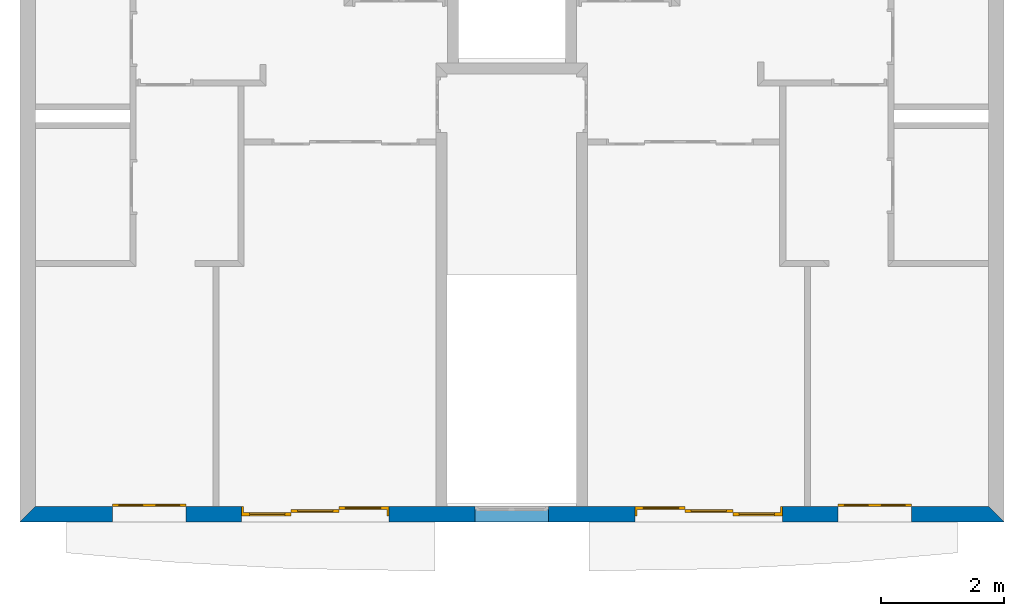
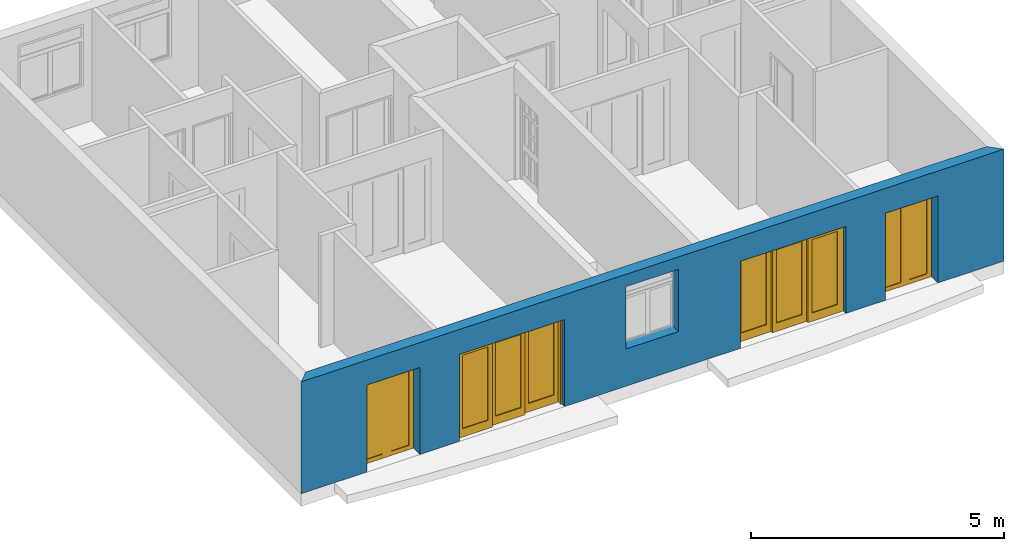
# One storey, part 2 of 12: 4 doors, 1 wall, 5 openings.
"""IFC2X3 building model written with IfcOpenShell, lengths in metres."""

from ifc_helpers import new_model, entity, si_unit, converted_unit, direction, frame, frame_2d, origin_with_axes, place, context, project, spatial, polyline, rectangle, outline, extrude, faceted_brep, source, transform, mapped, material, layer, layer_set, layer_usage, type_object, element, fill, save


model = new_model("IFC2X3")

# Units and contexts
context_of_model = context(None, 3, precision=1e-05, world=origin_with_axes(), true_north=direction((6.123234e-17, 1.0)))
plan_context = context("Plan", 3, precision=1e-05, world=origin_with_axes(), true_north=direction((6.123234e-17, 1.0)))
model_context = context("Model", 3, precision=1e-05, world=origin_with_axes(), true_north=direction((6.123234e-17, 1.0)))
ifc_project = project(units=[si_unit("LENGTHUNIT", "METRE"), si_unit("AREAUNIT", "SQUARE_METRE"), si_unit("VOLUMEUNIT", "CUBIC_METRE"), converted_unit("PLANEANGLEUNIT", "DEGREE", entity("IfcPlaneAngleMeasure", 0.017453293), si_unit("PLANEANGLEUNIT", "RADIAN"), dimensions=[0, 0, 0, 0, 0, 0, 0]), si_unit("SOLIDANGLEUNIT", "STERADIAN"), si_unit("MASSUNIT", "GRAM"), si_unit("TIMEUNIT", "SECOND"), si_unit("THERMODYNAMICTEMPERATUREUNIT", "DEGREE_CELSIUS"), si_unit("LUMINOUSINTENSITYUNIT", "LUMEN")], contexts=[context_of_model, plan_context, model_context])

# Site, building, storey
site_placement = place(None, origin_with_axes())
site = spatial("IfcSite", under=ifc_project, at=site_placement, Name="Por defecto Sitio", CompositionType="ELEMENT")
building_placement = place(site_placement, origin_with_axes())
building = spatial("IfcBuilding", under=site, at=building_placement, Name="Por defecto Edificio", CompositionType="ELEMENT")
storey_placement = place(building_placement, frame((0.0, 0.0, 10.2), z_axis=(0.0, 0.0, 1.0), x_axis=(1.0, 0.0, 0.0)))
storey = spatial("IfcBuildingStorey", under=building, at=storey_placement, Name="Tercera", CompositionType="ELEMENT", Elevation=10.2)

# Wall, openings, doors
ifc_material = material(Name="Ladrillo común")
ifc_layer = layer(ifc_material, 0.25, ventilated="UNKNOWN")
ifc_layer_set = layer_set([ifc_layer], Name="Ladrillo común")
ifc_layer_usage = layer_usage(ifc_layer_set, "AXIS2", "NEGATIVE", 0.0)
wall_type = type_object("IfcWallType", Name="Ladrillo común", PredefinedType="NOTDEFINED")
wall_placement = place(storey_placement, frame((16.03417, -1.1368684e-13, 0.0), z_axis=(0.0, 0.0, 1.0), x_axis=(-1.0, 7.0902852e-15, 0.0)))
wall = element("IfcWallStandardCase", 1, at=wall_placement, inside=storey, type_object=wall_type, material=ifc_layer_usage, Name="Muro-011", context=context_of_model, shape_type="SweptSolid", body=[
    extrude(outline(polyline([(0.25, -0.25), (15.78417, -0.25), (16.03417, 0.0), (0.0, 0.0), (0.25, -0.25)])), origin_with_axes(), (0.0, 0.0, 1.0), 2.7),
])
opening_1_placement = place(wall_placement, frame((13.926599, -0.25, 0.0), z_axis=(0.0, 0.0, 1.0), x_axis=(1.0, 0.0, 0.0)))
opening_1 = element("IfcOpeningElement", 2, at=opening_1_placement, cuts=wall, ObjectType="Opening", context=model_context, shape_type="SweptSolid", body=[
    extrude(rectangle(XDim=1.2, YDim=2.1, at=frame_2d((-1.7763568e-15, 1.05), x_axis=(-1.0, 0.0))), frame((0.0, 0.0, 0.0), z_axis=(0.0, 1.0, 0.0), x_axis=(-1.0, 0.0, 0.0)), (0.0, 0.0, 1.0), 0.25),
])
opening_2_placement = place(wall_placement, frame((2.1075705, -0.25, 0.0), z_axis=(0.0, 0.0, 1.0), x_axis=(1.0, 0.0, 0.0)))
opening_2 = element("IfcOpeningElement", 3, at=opening_2_placement, cuts=wall, ObjectType="Opening", context=model_context, shape_type="SweptSolid", body=[
    extrude(rectangle(XDim=1.2, YDim=2.1, at=frame_2d((-1.7763568e-15, 1.05), x_axis=(-1.0, 0.0))), frame((0.0, 0.0, 0.0), z_axis=(0.0, 1.0, 0.0), x_axis=(-1.0, 0.0, 0.0)), (0.0, 0.0, 1.0), 0.25),
])
opening_3_placement = place(wall_placement, frame((11.225136, -0.25, 0.0), z_axis=(0.0, 0.0, 1.0), x_axis=(1.0, 0.0, 0.0)))
opening_3 = element("IfcOpeningElement", 4, at=opening_3_placement, cuts=wall, ObjectType="Opening", context=model_context, shape_type="SweptSolid", body=[
    extrude(rectangle(XDim=2.4, YDim=2.1, at=frame_2d((-1.7763568e-15, 1.05), x_axis=(-1.0, 0.0))), frame((0.0, 0.0, 0.0), z_axis=(0.0, 1.0, 0.0), x_axis=(-1.0, 0.0, 0.0)), (0.0, 0.0, 1.0), 0.25),
])
opening_4_placement = place(wall_placement, frame((4.8090341, -0.25, 0.0), z_axis=(0.0, 0.0, 1.0), x_axis=(1.0, 0.0, 0.0)))
opening_4 = element("IfcOpeningElement", 5, at=opening_4_placement, cuts=wall, ObjectType="Opening", context=model_context, shape_type="SweptSolid", body=[
    extrude(rectangle(XDim=2.4, YDim=2.1, at=frame_2d((-1.7763568e-15, 1.05), x_axis=(-1.0, 0.0))), frame((0.0, 0.0, 0.0), z_axis=(0.0, 1.0, 0.0), x_axis=(-1.0, 0.0, 0.0)), (0.0, 0.0, 1.0), 0.25),
])
opening_5_placement = place(wall_placement, frame((8.0241698, -0.25, 0.9), z_axis=(0.0, 0.0, 1.0), x_axis=(1.0, 0.0, 0.0)))
element("IfcOpeningElement", 6, at=opening_5_placement, cuts=wall, ObjectType="Opening", context=model_context, shape_type="SweptSolid", body=[
    extrude(rectangle(XDim=1.2, YDim=1.5, at=frame_2d((-1.7763568e-15, 0.75), x_axis=(-1.0, 0.0))), frame((0.0, 0.0, 0.0), z_axis=(0.0, 1.0, 0.0), x_axis=(-1.0, 0.0, 0.0)), (0.0, 0.0, 1.0), 0.25),
])
door_style_1 = type_object("IfcDoorStyle", Name="P2 Corredera Ext 12", ConstructionType="NOTDEFINED", OperationType="DOUBLE_DOOR_SLIDING", ParameterTakesPrecedence=False, Sizeable=False)
shared_shape_1 = source(origin_with_axes(), model_context, "Body", "Brep", [
    faceted_brep([(-2.4424907e-15, 0.045, 0.1), (0.1, 0.045, 0.1), (0.1, 0.005, 0.1), (-2.220446e-15, 0.005, 0.1), (-2.4424907e-15, 0.045, 2.0), (0.1, 0.045, 2.0), (0.1, 0.005, 2.0), (-2.220446e-15, 0.005, 2.0)], [[[0, 1, 2, 3]], [[0, 4, 5, 1]], [[1, 5, 6, 2]], [[3, 2, 6, 7]], [[4, 0, 3, 7]], [[5, 4, 7, 6]]]),
    faceted_brep([(0.6, 0.045, 0.1), (0.6, 0.045, 2.0), (0.6, 0.005, 2.0), (0.6, 0.005, 0.1), (0.5, 0.045, 0.1), (0.5, 0.045, 2.0), (0.5, 0.005, 2.0), (0.5, 0.005, 0.1)], [[[0, 1, 2, 3]], [[0, 4, 5, 1]], [[1, 5, 6, 2]], [[3, 2, 6, 7]], [[4, 0, 3, 7]], [[5, 4, 7, 6]]]),
    faceted_brep([(-2.4424907e-15, 0.045, 0.0), (0.6, 0.045, 0.0), (0.6, 0.005, 0.0), (-2.220446e-15, 0.005, 0.0), (-2.4424907e-15, 0.045, 0.1), (0.1, 0.045, 0.1), (0.5, 0.045, 0.1), (0.6, 0.045, 0.1), (0.6, 0.005, 0.1), (0.5, 0.005, 0.1), (0.1, 0.005, 0.1), (-2.220446e-15, 0.005, 0.1)], [[[0, 1, 2, 3]], [[0, 4, 5, 6, 7, 1]], [[1, 7, 8, 2]], [[3, 2, 8, 9, 10, 11]], [[4, 0, 3, 11]], [[5, 4, 11, 10]], [[6, 5, 10, 9]], [[7, 6, 9, 8]]]),
    faceted_brep([(-2.4424907e-15, 0.045, 2.1), (-2.4424907e-15, 0.045, 2.0), (-2.220446e-15, 0.005, 2.0), (-2.220446e-15, 0.005, 2.1), (0.6, 0.045, 2.1), (0.6, 0.045, 2.0), (0.5, 0.045, 2.0), (0.1, 0.045, 2.0), (0.1, 0.005, 2.0), (0.5, 0.005, 2.0), (0.6, 0.005, 2.0), (0.6, 0.005, 2.1)], [[[0, 1, 2, 3]], [[0, 4, 5, 6, 7, 1]], [[1, 7, 8, 2]], [[3, 2, 8, 9, 10, 11]], [[4, 0, 3, 11]], [[5, 4, 11, 10]], [[6, 5, 10, 9]], [[7, 6, 9, 8]]]),
    faceted_brep([(0.1, 0.031, 0.1), (0.5, 0.031, 0.1), (0.5, 0.019, 0.1), (0.1, 0.019, 0.1), (0.1, 0.031, 2.0), (0.5, 0.031, 2.0), (0.5, 0.019, 2.0), (0.1, 0.019, 2.0)], [[[0, 1, 2, 3]], [[0, 4, 5, 1]], [[1, 5, 6, 2]], [[3, 2, 6, 7]], [[4, 0, 3, 7]], [[5, 4, 7, 6]]]),
    faceted_brep([(1.2, 0.045, 0.1), (1.2, 0.005, 0.1), (1.1, 0.005, 0.1), (1.1, 0.045, 0.1), (1.2, 0.045, 2.0), (1.2, 0.005, 2.0), (1.1, 0.005, 2.0), (1.1, 0.045, 2.0)], [[[0, 1, 2, 3]], [[4, 5, 1, 0]], [[1, 5, 6, 2]], [[3, 2, 6, 7]], [[0, 3, 7, 4]], [[7, 6, 5, 4]]]),
    faceted_brep([(0.6, 0.045, 0.1), (0.6, 0.005, 0.1), (0.6, 0.005, 2.0), (0.6, 0.045, 2.0), (0.7, 0.045, 0.1), (0.7, 0.005, 0.1), (0.7, 0.005, 2.0), (0.7, 0.045, 2.0)], [[[0, 1, 2, 3]], [[4, 5, 1, 0]], [[1, 5, 6, 2]], [[3, 2, 6, 7]], [[0, 3, 7, 4]], [[7, 6, 5, 4]]]),
    faceted_brep([(1.2, 0.045, 0.0), (1.2, 0.005, 0.0), (0.6, 0.005, 0.0), (0.6, 0.045, 0.0), (1.2, 0.045, 0.1), (1.2, 0.005, 0.1), (1.1, 0.005, 0.1), (0.7, 0.005, 0.1), (0.6, 0.005, 0.1), (0.6, 0.045, 0.1), (0.7, 0.045, 0.1), (1.1, 0.045, 0.1)], [[[0, 1, 2, 3]], [[4, 5, 1, 0]], [[1, 5, 6, 7, 8, 2]], [[3, 2, 8, 9]], [[0, 3, 9, 10, 11, 4]], [[11, 6, 5, 4]], [[10, 7, 6, 11]], [[9, 8, 7, 10]]]),
    faceted_brep([(1.2, 0.045, 2.1), (1.2, 0.005, 2.1), (1.2, 0.005, 2.0), (1.2, 0.045, 2.0), (0.6, 0.045, 2.1), (0.6, 0.005, 2.1), (0.6, 0.005, 2.0), (0.7, 0.005, 2.0), (1.1, 0.005, 2.0), (1.1, 0.045, 2.0), (0.7, 0.045, 2.0), (0.6, 0.045, 2.0)], [[[0, 1, 2, 3]], [[4, 5, 1, 0]], [[1, 5, 6, 7, 8, 2]], [[3, 2, 8, 9]], [[0, 3, 9, 10, 11, 4]], [[11, 6, 5, 4]], [[10, 7, 6, 11]], [[9, 8, 7, 10]]]),
    faceted_brep([(1.1, 0.031, 0.1), (1.1, 0.019, 0.1), (0.7, 0.019, 0.1), (0.7, 0.031, 0.1), (1.1, 0.031, 2.0), (1.1, 0.019, 2.0), (0.7, 0.019, 2.0), (0.7, 0.031, 2.0)], [[[0, 1, 2, 3]], [[4, 5, 1, 0]], [[1, 5, 6, 2]], [[3, 2, 6, 7]], [[0, 3, 7, 4]], [[7, 6, 5, 4]]]),
])
door_1_placement = place(opening_1_placement, frame((0.6, 0.0, 0.0), z_axis=(0.0, 0.0, 1.0), x_axis=(-1.0, 0.0, 0.0)))
door_1 = element("IfcDoor", 7, at=door_1_placement, inside=storey, type_object=door_style_1, Name="P29", OverallHeight=2.1, OverallWidth=1.2, context=model_context, shape_type="MappedRepresentation", body=[
    mapped(shared_shape_1, transform((0.0, 0.0, 0.0), scale=1.0)),
])
fill(opening_1, door_1)
door_style_2 = type_object("IfcDoorStyle", Name="P2 Corredera Ext 12", ConstructionType="NOTDEFINED", OperationType="DOUBLE_DOOR_SLIDING", ParameterTakesPrecedence=False, Sizeable=False)
door_2_placement = place(opening_2_placement, frame((0.6, 0.0, 0.0), z_axis=(0.0, 0.0, 1.0), x_axis=(-1.0, 0.0, 0.0)))
door_2 = element("IfcDoor", 8, at=door_2_placement, inside=storey, type_object=door_style_2, Name="P30", OverallHeight=2.1, OverallWidth=1.2, context=model_context, shape_type="MappedRepresentation", body=[
    mapped(shared_shape_1, transform((0.0, 0.0, 0.0), scale=1.0)),
])
fill(opening_2, door_2)
door_style_3 = type_object("IfcDoorStyle", Name="P3 Corredera 12", ConstructionType="NOTDEFINED", OperationType="SLIDING_TO_RIGHT", ParameterTakesPrecedence=False, Sizeable=False)
shared_shape_2 = source(origin_with_axes(), model_context, "Body", "Brep", [
    faceted_brep([(0.03, 0.15, 0.0), (0.03, 0.15, 2.07), (0.03, -8.6333718e-14, 2.07), (0.03, -8.6222696e-14, 0.0), (-1.7763568e-15, 0.15, 0.0), (-1.7763568e-15, 0.15, 2.07), (-8.8817842e-16, -8.6541885e-14, 2.07), (0.0, 0.0, 0.0)], [[[0, 1, 2, 3]], [[0, 4, 5, 1]], [[1, 5, 6, 2]], [[3, 2, 6, 7]], [[4, 0, 3, 7]], [[5, 4, 7, 6]]]),
    faceted_brep([(2.4, 0.15, 0.0), (2.4, 0.15, 2.07), (2.4, -7.0110584e-14, 2.07), (2.4, -6.9999562e-14, 0.0), (2.37, 0.15, 0.0), (2.37, 0.15, 2.07), (2.37, -7.0318751e-14, 2.07), (2.37, -7.0179973e-14, 0.0)], [[[0, 1, 2, 3]], [[0, 4, 5, 1]], [[1, 5, 6, 2]], [[3, 2, 6, 7]], [[4, 0, 3, 7]], [[5, 4, 7, 6]]]),
    faceted_brep([(-1.7763568e-15, 0.15, 2.1), (-1.7763568e-15, 0.15, 2.07), (-8.8817842e-16, -8.6541885e-14, 2.07), (-8.8817842e-16, -8.6541885e-14, 2.1), (2.4, 0.15, 2.1), (2.4, 0.15, 2.07), (2.37, 0.15, 2.07), (0.03, 0.15, 2.07), (0.03, -8.6333718e-14, 2.07), (2.37, -7.0318751e-14, 2.07), (2.4, -7.0110584e-14, 2.07), (2.4, -7.0110584e-14, 2.1)], [[[0, 1, 2, 3]], [[0, 4, 5, 6, 7, 1]], [[1, 7, 8, 2]], [[3, 2, 8, 9, 10, 11]], [[4, 0, 3, 11]], [[5, 4, 11, 10]], [[6, 5, 10, 9]], [[7, 6, 9, 8]]]),
    faceted_brep([(2.37, 0.15, 0.2), (2.37, 0.1, 0.2), (2.27, 0.1, 0.2), (2.27, 0.15, 0.2), (2.37, 0.15, 1.97), (2.37, 0.1, 1.97), (2.27, 0.1, 1.97), (2.27, 0.15, 1.97)], [[[0, 1, 2, 3]], [[4, 5, 1, 0]], [[1, 5, 6, 2]], [[3, 2, 6, 7]], [[0, 3, 7, 4]], [[7, 6, 5, 4]]]),
    faceted_brep([(1.59, 0.15, 0.2), (1.59, 0.1, 0.2), (1.59, 0.1, 1.97), (1.59, 0.15, 1.97), (1.69, 0.15, 0.2), (1.69, 0.1, 0.2), (1.69, 0.1, 1.97), (1.69, 0.15, 1.97)], [[[0, 1, 2, 3]], [[4, 5, 1, 0]], [[1, 5, 6, 2]], [[3, 2, 6, 7]], [[0, 3, 7, 4]], [[7, 6, 5, 4]]]),
    faceted_brep([(2.37, 0.15, 0.0), (2.37, 0.1, 0.0), (1.59, 0.1, 0.0), (1.59, 0.15, 0.0), (2.37, 0.15, 0.2), (2.37, 0.1, 0.2), (2.27, 0.1, 0.2), (1.69, 0.1, 0.2), (1.59, 0.1, 0.2), (1.59, 0.15, 0.2), (1.69, 0.15, 0.2), (2.27, 0.15, 0.2)], [[[0, 1, 2, 3]], [[4, 5, 1, 0]], [[1, 5, 6, 7, 8, 2]], [[3, 2, 8, 9]], [[0, 3, 9, 10, 11, 4]], [[11, 6, 5, 4]], [[10, 7, 6, 11]], [[9, 8, 7, 10]]]),
    faceted_brep([(2.37, 0.15, 2.07), (2.37, 0.1, 2.07), (2.37, 0.1, 1.97), (2.37, 0.15, 1.97), (1.59, 0.15, 2.07), (1.59, 0.1, 2.07), (1.59, 0.1, 1.97), (1.69, 0.1, 1.97), (2.27, 0.1, 1.97), (2.27, 0.15, 1.97), (1.69, 0.15, 1.97), (1.59, 0.15, 1.97)], [[[0, 1, 2, 3]], [[4, 5, 1, 0]], [[1, 5, 6, 7, 8, 2]], [[3, 2, 8, 9]], [[0, 3, 9, 10, 11, 4]], [[11, 6, 5, 4]], [[10, 7, 6, 11]], [[9, 8, 7, 10]]]),
    faceted_brep([(2.27, 0.131, 0.2), (2.27, 0.119, 0.2), (1.69, 0.119, 0.2), (1.69, 0.131, 0.2), (2.27, 0.131, 1.97), (2.27, 0.119, 1.97), (1.69, 0.119, 1.97), (1.69, 0.131, 1.97)], [[[0, 1, 2, 3]], [[4, 5, 1, 0]], [[1, 5, 6, 2]], [[3, 2, 6, 7]], [[0, 3, 7, 4]], [[7, 6, 5, 4]]]),
    faceted_brep([(1.59, 0.1, 0.2), (1.59, 0.05, 0.2), (1.49, 0.05, 0.2), (1.49, 0.1, 0.2), (1.59, 0.1, 1.97), (1.59, 0.05, 1.97), (1.49, 0.05, 1.97), (1.49, 0.1, 1.97)], [[[0, 1, 2, 3]], [[4, 5, 1, 0]], [[1, 5, 6, 2]], [[3, 2, 6, 7]], [[0, 3, 7, 4]], [[7, 6, 5, 4]]]),
    faceted_brep([(0.81, 0.1, 0.2), (0.81, 0.05, 0.2), (0.81, 0.05, 1.97), (0.81, 0.1, 1.97), (0.91, 0.1, 0.2), (0.91, 0.05, 0.2), (0.91, 0.05, 1.97), (0.91, 0.1, 1.97)], [[[0, 1, 2, 3]], [[4, 5, 1, 0]], [[1, 5, 6, 2]], [[3, 2, 6, 7]], [[0, 3, 7, 4]], [[7, 6, 5, 4]]]),
    faceted_brep([(1.59, 0.1, 0.0), (1.59, 0.05, 0.0), (0.81, 0.05, 0.0), (0.81, 0.1, 0.0), (1.59, 0.1, 0.2), (1.59, 0.05, 0.2), (1.49, 0.05, 0.2), (0.91, 0.05, 0.2), (0.81, 0.05, 0.2), (0.81, 0.1, 0.2), (0.91, 0.1, 0.2), (1.49, 0.1, 0.2)], [[[0, 1, 2, 3]], [[4, 5, 1, 0]], [[1, 5, 6, 7, 8, 2]], [[3, 2, 8, 9]], [[0, 3, 9, 10, 11, 4]], [[11, 6, 5, 4]], [[10, 7, 6, 11]], [[9, 8, 7, 10]]]),
    faceted_brep([(1.59, 0.1, 2.07), (1.59, 0.05, 2.07), (1.59, 0.05, 1.97), (1.59, 0.1, 1.97), (0.81, 0.1, 2.07), (0.81, 0.05, 2.07), (0.81, 0.05, 1.97), (0.91, 0.05, 1.97), (1.49, 0.05, 1.97), (1.49, 0.1, 1.97), (0.91, 0.1, 1.97), (0.81, 0.1, 1.97)], [[[0, 1, 2, 3]], [[4, 5, 1, 0]], [[1, 5, 6, 7, 8, 2]], [[3, 2, 8, 9]], [[0, 3, 9, 10, 11, 4]], [[11, 6, 5, 4]], [[10, 7, 6, 11]], [[9, 8, 7, 10]]]),
    faceted_brep([(1.49, 0.081, 0.2), (1.49, 0.069, 0.2), (0.91, 0.069, 0.2), (0.91, 0.081, 0.2), (1.49, 0.081, 1.97), (1.49, 0.069, 1.97), (0.91, 0.069, 1.97), (0.91, 0.081, 1.97)], [[[0, 1, 2, 3]], [[4, 5, 1, 0]], [[1, 5, 6, 2]], [[3, 2, 6, 7]], [[0, 3, 7, 4]], [[7, 6, 5, 4]]]),
    faceted_brep([(0.81, 0.05, 0.2), (0.81, -8.0907503e-14, 0.2), (0.71, -8.1587515e-14, 0.2), (0.71, 0.05, 0.2), (0.81, 0.05, 1.97), (0.81, -8.1129548e-14, 1.97), (0.71, -8.1809559e-14, 1.97), (0.71, 0.05, 1.97)], [[[0, 1, 2, 3]], [[4, 5, 1, 0]], [[1, 5, 6, 2]], [[3, 2, 6, 7]], [[0, 3, 7, 4]], [[7, 6, 5, 4]]]),
    faceted_brep([(0.03, 0.05, 0.2), (0.03, -8.6250451e-14, 0.2), (0.03, -8.6472496e-14, 1.97), (0.03, 0.05, 1.97), (0.13, 0.05, 0.2), (0.13, -8.557044e-14, 0.2), (0.13, -8.5792484e-14, 1.97), (0.13, 0.05, 1.97)], [[[0, 1, 2, 3]], [[4, 5, 1, 0]], [[1, 5, 6, 2]], [[3, 2, 6, 7]], [[0, 3, 7, 4]], [[7, 6, 5, 4]]]),
    faceted_brep([(0.81, 0.05, 0.0), (0.81, -8.0907503e-14, 0.0), (0.03, -8.6250451e-14, 0.0), (0.03, 0.05, 0.0), (0.81, 0.05, 0.2), (0.81, -8.0907503e-14, 0.2), (0.71, -8.1587515e-14, 0.2), (0.13, -8.557044e-14, 0.2), (0.03, -8.6250451e-14, 0.2), (0.03, 0.05, 0.2), (0.13, 0.05, 0.2), (0.71, 0.05, 0.2)], [[[0, 1, 2, 3]], [[4, 5, 1, 0]], [[1, 5, 6, 7, 8, 2]], [[3, 2, 8, 9]], [[0, 3, 9, 10, 11, 4]], [[11, 6, 5, 4]], [[10, 7, 6, 11]], [[9, 8, 7, 10]]]),
    faceted_brep([(0.81, 0.05, 2.07), (0.81, -8.1129548e-14, 2.07), (0.81, -8.1129548e-14, 1.97), (0.81, 0.05, 1.97), (0.03, 0.05, 2.07), (0.03, -8.6472496e-14, 2.07), (0.03, -8.6472496e-14, 1.97), (0.13, -8.5792484e-14, 1.97), (0.71, -8.1809559e-14, 1.97), (0.71, 0.05, 1.97), (0.13, 0.05, 1.97), (0.03, 0.05, 1.97)], [[[0, 1, 2, 3]], [[4, 5, 1, 0]], [[1, 5, 6, 7, 8, 2]], [[3, 2, 8, 9]], [[0, 3, 9, 10, 11, 4]], [[11, 6, 5, 4]], [[10, 7, 6, 11]], [[9, 8, 7, 10]]]),
    faceted_brep([(0.71, 0.031, 0.2), (0.71, 0.019, 0.2), (0.13, 0.019, 0.2), (0.13, 0.031, 0.2), (0.71, 0.031, 1.97), (0.71, 0.019, 1.97), (0.13, 0.019, 1.97), (0.13, 0.031, 1.97)], [[[0, 1, 2, 3]], [[4, 5, 1, 0]], [[1, 5, 6, 2]], [[3, 2, 6, 7]], [[0, 3, 7, 4]], [[7, 6, 5, 4]]]),
])
door_3_placement = place(opening_3_placement, frame((1.2, 0.15, 0.0), z_axis=(0.0, 0.0, 1.0), x_axis=(-1.0, 0.0, 0.0)))
door_3 = element("IfcDoor", 9, at=door_3_placement, inside=storey, type_object=door_style_3, Name="P26", OverallHeight=2.1, OverallWidth=2.4, context=model_context, shape_type="MappedRepresentation", body=[
    mapped(shared_shape_2, transform((0.0, 0.0, 0.0), scale=1.0)),
])
fill(opening_3, door_3)
door_style_4 = type_object("IfcDoorStyle", Name="P3 Corredera 12", ConstructionType="NOTDEFINED", OperationType="SLIDING_TO_LEFT", ParameterTakesPrecedence=False, Sizeable=False)
shared_shape_3 = source(origin_with_axes(), model_context, "Body", "Brep", [
    faceted_brep([(2.37, 0.15, 0.0), (2.37, -2.5493496e-14, 0.0), (2.37, -2.5632274e-14, 2.07), (2.37, 0.15, 2.07), (2.4, 0.15, 0.0), (2.4, -2.5313085e-14, 0.0), (2.4, -2.5424107e-14, 2.07), (2.4, 0.15, 2.07)], [[[0, 1, 2, 3]], [[4, 5, 1, 0]], [[1, 5, 6, 2]], [[3, 2, 6, 7]], [[0, 3, 7, 4]], [[7, 6, 5, 4]]]),
    faceted_brep([(-1.7763568e-15, 0.15, 0.0), (0.0, 0.0, 0.0), (0.0, -4.1855408e-14, 2.07), (-1.7763568e-15, 0.15, 2.07), (0.03, 0.15, 0.0), (0.03, -4.1536219e-14, 0.0), (0.03, -4.1647241e-14, 2.07), (0.03, 0.15, 2.07)], [[[0, 1, 2, 3]], [[4, 5, 1, 0]], [[1, 5, 6, 2]], [[3, 2, 6, 7]], [[0, 3, 7, 4]], [[7, 6, 5, 4]]]),
    faceted_brep([(2.4, 0.15, 2.1), (2.4, -2.5424107e-14, 2.1), (2.4, -2.5424107e-14, 2.07), (2.4, 0.15, 2.07), (-1.7763568e-15, 0.15, 2.1), (0.0, -4.1855408e-14, 2.1), (0.0, -4.1855408e-14, 2.07), (0.03, -4.1647241e-14, 2.07), (2.37, -2.5632274e-14, 2.07), (2.37, 0.15, 2.07), (0.03, 0.15, 2.07), (-1.7763568e-15, 0.15, 2.07)], [[[0, 1, 2, 3]], [[4, 5, 1, 0]], [[1, 5, 6, 7, 8, 2]], [[3, 2, 8, 9]], [[0, 3, 9, 10, 11, 4]], [[11, 6, 5, 4]], [[10, 7, 6, 11]], [[9, 8, 7, 10]]]),
    faceted_brep([(0.03, 0.15, 0.2), (0.13, 0.15, 0.2), (0.13, 0.1, 0.2), (0.03, 0.1, 0.2), (0.03, 0.15, 1.97), (0.13, 0.15, 1.97), (0.13, 0.1, 1.97), (0.03, 0.1, 1.97)], [[[0, 1, 2, 3]], [[0, 4, 5, 1]], [[1, 5, 6, 2]], [[3, 2, 6, 7]], [[4, 0, 3, 7]], [[5, 4, 7, 6]]]),
    faceted_brep([(0.81, 0.15, 0.2), (0.81, 0.15, 1.97), (0.81, 0.1, 1.97), (0.81, 0.1, 0.2), (0.71, 0.15, 0.2), (0.71, 0.15, 1.97), (0.71, 0.1, 1.97), (0.71, 0.1, 0.2)], [[[0, 1, 2, 3]], [[0, 4, 5, 1]], [[1, 5, 6, 2]], [[3, 2, 6, 7]], [[4, 0, 3, 7]], [[5, 4, 7, 6]]]),
    faceted_brep([(0.03, 0.15, 0.0), (0.81, 0.15, 0.0), (0.81, 0.1, 0.0), (0.03, 0.1, 0.0), (0.03, 0.15, 0.2), (0.13, 0.15, 0.2), (0.71, 0.15, 0.2), (0.81, 0.15, 0.2), (0.81, 0.1, 0.2), (0.71, 0.1, 0.2), (0.13, 0.1, 0.2), (0.03, 0.1, 0.2)], [[[0, 1, 2, 3]], [[0, 4, 5, 6, 7, 1]], [[1, 7, 8, 2]], [[3, 2, 8, 9, 10, 11]], [[4, 0, 3, 11]], [[5, 4, 11, 10]], [[6, 5, 10, 9]], [[7, 6, 9, 8]]]),
    faceted_brep([(0.03, 0.15, 2.07), (0.03, 0.15, 1.97), (0.03, 0.1, 1.97), (0.03, 0.1, 2.07), (0.81, 0.15, 2.07), (0.81, 0.15, 1.97), (0.71, 0.15, 1.97), (0.13, 0.15, 1.97), (0.13, 0.1, 1.97), (0.71, 0.1, 1.97), (0.81, 0.1, 1.97), (0.81, 0.1, 2.07)], [[[0, 1, 2, 3]], [[0, 4, 5, 6, 7, 1]], [[1, 7, 8, 2]], [[3, 2, 8, 9, 10, 11]], [[4, 0, 3, 11]], [[5, 4, 11, 10]], [[6, 5, 10, 9]], [[7, 6, 9, 8]]]),
    faceted_brep([(0.13, 0.131, 0.2), (0.71, 0.131, 0.2), (0.71, 0.119, 0.2), (0.13, 0.119, 0.2), (0.13, 0.131, 1.97), (0.71, 0.131, 1.97), (0.71, 0.119, 1.97), (0.13, 0.119, 1.97)], [[[0, 1, 2, 3]], [[0, 4, 5, 1]], [[1, 5, 6, 2]], [[3, 2, 6, 7]], [[4, 0, 3, 7]], [[5, 4, 7, 6]]]),
    faceted_brep([(0.81, 0.1, 0.2), (0.91, 0.1, 0.2), (0.91, 0.05, 0.2), (0.81, 0.05, 0.2), (0.81, 0.1, 1.97), (0.91, 0.1, 1.97), (0.91, 0.05, 1.97), (0.81, 0.05, 1.97)], [[[0, 1, 2, 3]], [[0, 4, 5, 1]], [[1, 5, 6, 2]], [[3, 2, 6, 7]], [[4, 0, 3, 7]], [[5, 4, 7, 6]]]),
    faceted_brep([(1.59, 0.1, 0.2), (1.59, 0.1, 1.97), (1.59, 0.05, 1.97), (1.59, 0.05, 0.2), (1.49, 0.1, 0.2), (1.49, 0.1, 1.97), (1.49, 0.05, 1.97), (1.49, 0.05, 0.2)], [[[0, 1, 2, 3]], [[0, 4, 5, 1]], [[1, 5, 6, 2]], [[3, 2, 6, 7]], [[4, 0, 3, 7]], [[5, 4, 7, 6]]]),
    faceted_brep([(0.81, 0.1, 0.0), (1.59, 0.1, 0.0), (1.59, 0.05, 0.0), (0.81, 0.05, 0.0), (0.81, 0.1, 0.2), (0.91, 0.1, 0.2), (1.49, 0.1, 0.2), (1.59, 0.1, 0.2), (1.59, 0.05, 0.2), (1.49, 0.05, 0.2), (0.91, 0.05, 0.2), (0.81, 0.05, 0.2)], [[[0, 1, 2, 3]], [[0, 4, 5, 6, 7, 1]], [[1, 7, 8, 2]], [[3, 2, 8, 9, 10, 11]], [[4, 0, 3, 11]], [[5, 4, 11, 10]], [[6, 5, 10, 9]], [[7, 6, 9, 8]]]),
    faceted_brep([(0.81, 0.1, 2.07), (0.81, 0.1, 1.97), (0.81, 0.05, 1.97), (0.81, 0.05, 2.07), (1.59, 0.1, 2.07), (1.59, 0.1, 1.97), (1.49, 0.1, 1.97), (0.91, 0.1, 1.97), (0.91, 0.05, 1.97), (1.49, 0.05, 1.97), (1.59, 0.05, 1.97), (1.59, 0.05, 2.07)], [[[0, 1, 2, 3]], [[0, 4, 5, 6, 7, 1]], [[1, 7, 8, 2]], [[3, 2, 8, 9, 10, 11]], [[4, 0, 3, 11]], [[5, 4, 11, 10]], [[6, 5, 10, 9]], [[7, 6, 9, 8]]]),
    faceted_brep([(0.91, 0.081, 0.2), (1.49, 0.081, 0.2), (1.49, 0.069, 0.2), (0.91, 0.069, 0.2), (0.91, 0.081, 1.97), (1.49, 0.081, 1.97), (1.49, 0.069, 1.97), (0.91, 0.069, 1.97)], [[[0, 1, 2, 3]], [[0, 4, 5, 1]], [[1, 5, 6, 2]], [[3, 2, 6, 7]], [[4, 0, 3, 7]], [[5, 4, 7, 6]]]),
    faceted_brep([(1.59, 0.05, 0.2), (1.69, 0.05, 0.2), (1.69, -3.0211944e-14, 0.2), (1.59, -3.0891956e-14, 0.2), (1.59, 0.05, 1.97), (1.69, 0.05, 1.97), (1.69, -3.0433989e-14, 1.97), (1.59, -3.1114e-14, 1.97)], [[[0, 1, 2, 3]], [[0, 4, 5, 1]], [[1, 5, 6, 2]], [[3, 2, 6, 7]], [[4, 0, 3, 7]], [[5, 4, 7, 6]]]),
    faceted_brep([(2.37, 0.05, 0.2), (2.37, 0.05, 1.97), (2.37, -2.5771052e-14, 1.97), (2.37, -2.5549007e-14, 0.2), (2.27, 0.05, 0.2), (2.27, 0.05, 1.97), (2.27, -2.6451064e-14, 1.97), (2.27, -2.6229019e-14, 0.2)], [[[0, 1, 2, 3]], [[0, 4, 5, 1]], [[1, 5, 6, 2]], [[3, 2, 6, 7]], [[4, 0, 3, 7]], [[5, 4, 7, 6]]]),
    faceted_brep([(1.59, 0.05, 0.0), (2.37, 0.05, 0.0), (2.37, -2.5521252e-14, 0.0), (1.59, -3.08642e-14, 0.0), (1.59, 0.05, 0.2), (1.69, 0.05, 0.2), (2.27, 0.05, 0.2), (2.37, 0.05, 0.2), (2.37, -2.5549007e-14, 0.2), (2.27, -2.6229019e-14, 0.2), (1.69, -3.0211944e-14, 0.2), (1.59, -3.0891956e-14, 0.2)], [[[0, 1, 2, 3]], [[0, 4, 5, 6, 7, 1]], [[1, 7, 8, 2]], [[3, 2, 8, 9, 10, 11]], [[4, 0, 3, 11]], [[5, 4, 11, 10]], [[6, 5, 10, 9]], [[7, 6, 9, 8]]]),
    faceted_brep([(1.59, 0.05, 2.07), (1.59, 0.05, 1.97), (1.59, -3.1114e-14, 1.97), (1.59, -3.1114e-14, 2.07), (2.37, 0.05, 2.07), (2.37, 0.05, 1.97), (2.27, 0.05, 1.97), (1.69, 0.05, 1.97), (1.69, -3.0433989e-14, 1.97), (2.27, -2.6451064e-14, 1.97), (2.37, -2.5771052e-14, 1.97), (2.37, -2.5771052e-14, 2.07)], [[[0, 1, 2, 3]], [[0, 4, 5, 6, 7, 1]], [[1, 7, 8, 2]], [[3, 2, 8, 9, 10, 11]], [[4, 0, 3, 11]], [[5, 4, 11, 10]], [[6, 5, 10, 9]], [[7, 6, 9, 8]]]),
    faceted_brep([(1.69, 0.031, 0.2), (2.27, 0.031, 0.2), (2.27, 0.019, 0.2), (1.69, 0.019, 0.2), (1.69, 0.031, 1.97), (2.27, 0.031, 1.97), (2.27, 0.019, 1.97), (1.69, 0.019, 1.97)], [[[0, 1, 2, 3]], [[0, 4, 5, 1]], [[1, 5, 6, 2]], [[3, 2, 6, 7]], [[4, 0, 3, 7]], [[5, 4, 7, 6]]]),
])
door_4_placement = place(opening_4_placement, frame((1.2, 0.15, 0.0), z_axis=(0.0, 0.0, 1.0), x_axis=(-1.0, 0.0, 0.0)))
door_4 = element("IfcDoor", 10, at=door_4_placement, inside=storey, type_object=door_style_4, Name="P27", OverallHeight=2.1, OverallWidth=2.4, context=model_context, shape_type="MappedRepresentation", body=[
    mapped(shared_shape_3, transform((0.0, 0.0, 0.0), scale=1.0)),
])
fill(opening_4, door_4)

save(model, "model.ifc")
